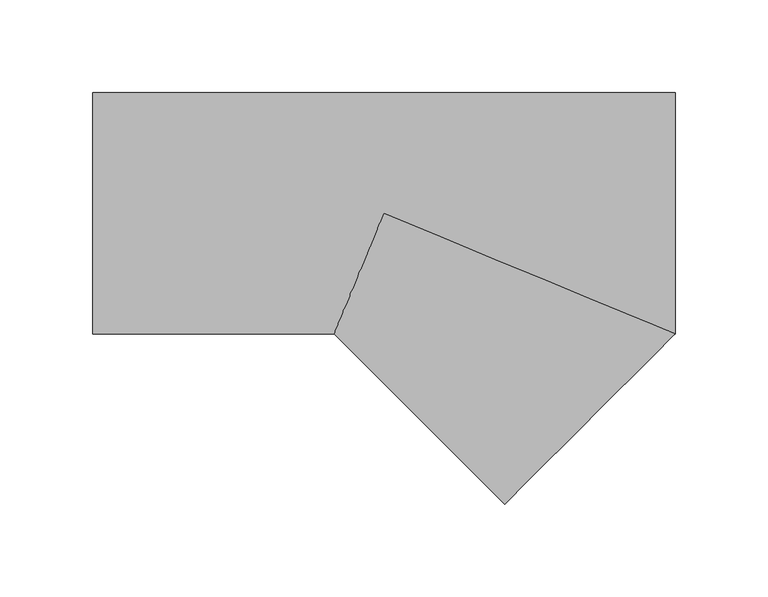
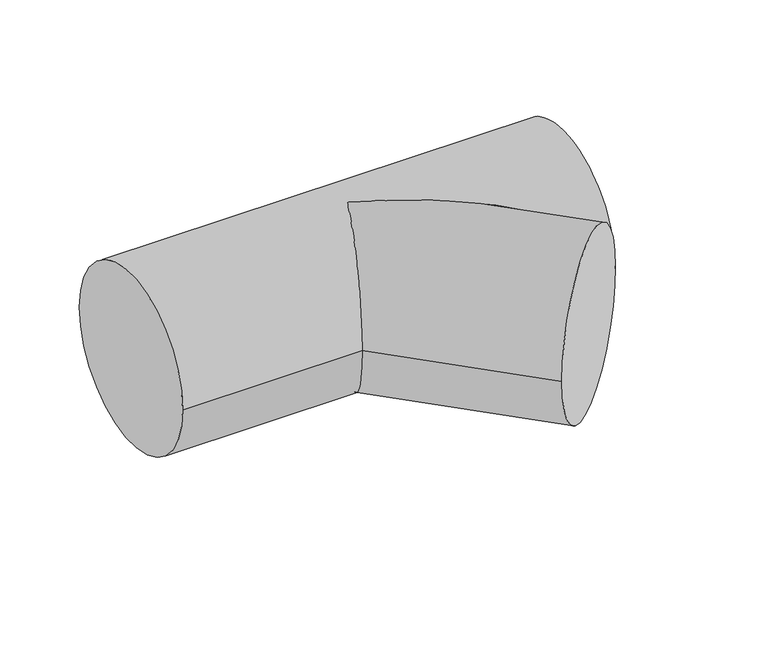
"""IFC4 building model written with IfcOpenShell, lengths in millimetres: pipe fitting geometry, M_Te - Genérica : Estándar."""

from ifc_helpers import new_model, si_unit, frame, origin, place, context, project, spatial, circle_curve, ellipse_curve, source, transform, mapped, element, save
from ifc_brep_helpers import plane_surface, cylinder_surface, advanced_brep


def pipe_fitting_2b84622b(model_context):
    return source(origin(), model_context, "Body", "AdvancedBrep", [
        advanced_brep(
        [(-157.1462079, -65.0875, 0.0), (-157.1462079, 65.0875, 0.0), (157.1462079, -65.0875, 0.0), (157.1462079, 65.0875, 0.0), (-26.9582239, -65.0875, 0.0), (0.0, 0.0, 65.0875), (0.0, 0.0, -65.0875), (65.1031732, -157.1397155, 0.0)],
        [
            (0, 1, circle_curve(frame((-157.1462079, 0.0, 0.0), z_axis=(-1.0, 0.0, 0.0), x_axis=(0.0, 1.0, 0.0)), 65.0875)),
            (1, 0, circle_curve(frame((-157.1462079, 0.0, 0.0), z_axis=(-1.0, 0.0, 0.0), x_axis=(0.0, 1.0, 0.0)), 65.0875)),
            (2, 3, circle_curve(frame((157.1462079, 0.0, 0.0), z_axis=(1.0, 0.0, 0.0), x_axis=(0.0, 1.0, 0.0)), 65.0875)),
            (3, 2, circle_curve(frame((157.1462079, 0.0, 0.0), z_axis=(1.0, 0.0, 0.0), x_axis=(0.0, 1.0, 0.0)), 65.0875)),
            (0, 4),
            (4, 5, ellipse_curve(frame((0.0, 0.0, 0.0), z_axis=(-0.9238890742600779, 0.3826603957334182, 0.0), x_axis=(-0.3826603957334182, -0.9238890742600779, 0.0)), 70.4494747, 65.0875)),
            (5, 2, ellipse_curve(frame((0.0, 0.0, 0.0), z_axis=(0.3826603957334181, 0.9238890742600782, 0.0), x_axis=(-0.9238890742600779, 0.3826603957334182, 0.0)), 170.0920731, 65.0875)),
            (3, 1),
            (2, 6, ellipse_curve(frame((0.0, 0.0, 0.0), z_axis=(0.3826603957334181, 0.9238890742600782, 0.0), x_axis=(-0.9238890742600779, 0.3826603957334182, 0.0)), 170.0920731, 65.0875)),
            (6, 4, ellipse_curve(frame((0.0, 0.0, 0.0), z_axis=(-0.9238890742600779, 0.3826603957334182, 0.0), x_axis=(-0.3826603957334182, -0.9238890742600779, 0.0)), 70.4494747, 65.0875)),
            (7, 2, circle_curve(frame((111.1246905, -111.1136077, 0.0), z_axis=(0.70714204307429, -0.7070715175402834, 0.0), x_axis=(0.7070715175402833, 0.7071420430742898, 0.0)), 65.0875)),
            (2, 7, circle_curve(frame((111.1246905, -111.1136077, 0.0), z_axis=(0.70714204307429, -0.7070715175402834, 0.0), x_axis=(0.7070715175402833, 0.7071420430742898, 0.0)), 65.0875)),
            (4, 7),
        ],
        [
            plane_surface(frame((-157.1462079, 0.0, 0.0), z_axis=(-1.0, 0.0, 0.0), x_axis=(0.0, 0.0, 1.0))),
            plane_surface(frame((157.1462079, 0.0, 0.0), z_axis=(1.0, 0.0, 0.0), x_axis=(0.0, 0.0, 1.0))),
            cylinder_surface(frame((-157.1462079, 0.0, 0.0), z_axis=(-1.0, 0.0, 0.0), x_axis=(0.0, 1.0, 0.0)), 65.0875),
            plane_surface(frame((111.1246905, -111.1136077, 0.0), z_axis=(0.70714204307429, -0.7070715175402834, 0.0), x_axis=(0.0, 0.0, 1.0))),
            cylinder_surface(frame((0.0, 0.0, 0.0), z_axis=(-0.7071420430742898, 0.7070715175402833, 0.0), x_axis=(0.7070715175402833, 0.7071420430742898, 0.0)), 65.0875),
        ],
        [
            (0, [[1, 2]]),
            (1, [[3, 4]]),
            (2, [[-1, 5, 6, 7, -4, 8]]),
            (2, [[-2, -8, -3, 9, 10, -5]]),
            (3, [[11, 12]]),
            (4, [[-12, -7, -6, 13]]),
            (4, [[-11, -13, -10, -9]]),
        ],
    ),
    ])


if __name__ == "__main__":
    model = new_model("IFC4")
    model_context = context("Model", 3, world=origin())
    ifc_project = project(units=[si_unit("LENGTHUNIT", "METRE", prefix="MILLI")], contexts=[model_context])
    site = spatial("IfcSite", under=ifc_project)
    building = spatial("IfcBuilding", under=site)
    placement = place(None, origin())
    pipe_fitting_shape = pipe_fitting_2b84622b(model_context)
    element("IfcPipeFitting", 1, ObjectType="M_Te - Genérica : Estándar", at=placement, inside=building, context=model_context, shape_type="MappedRepresentation", body=[
        mapped(pipe_fitting_shape, transform((0.0, 0.0, 0.0), x_axis=(1.0, 0.0, 0.0), y_axis=(0.0, 1.0, 0.0), z_axis=(0.0, 0.0, 1.0))),
    ])
    save(model, "model.ifc")
